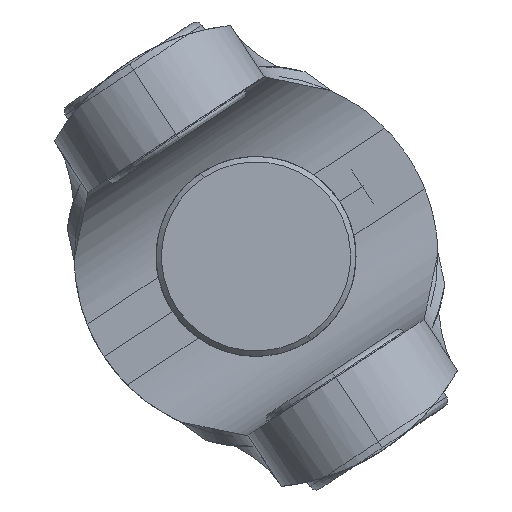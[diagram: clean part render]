
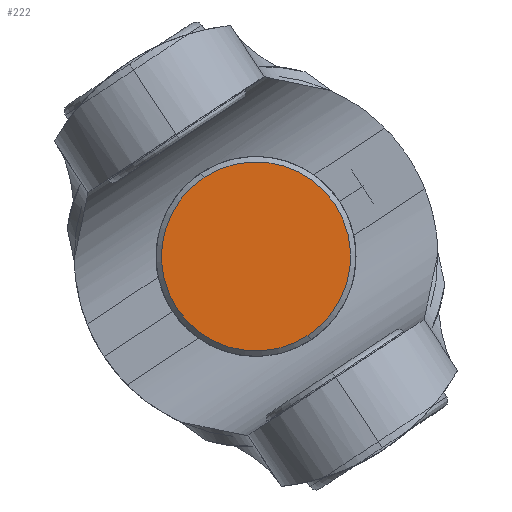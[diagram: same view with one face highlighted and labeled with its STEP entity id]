
A CAD part, top view. The second image highlights one B-rep face of the part: STEP entity #222.
In plain terms, the highlighted planar face has unit normal (0, 0, 1).
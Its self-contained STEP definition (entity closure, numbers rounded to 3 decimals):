
#30 = DIRECTION ( 'NONE',  ( 0.55, -0.835, 0. ) ) ;
#114 = VERTEX_POINT ( 'NONE', #2310 ) ;
#222 = ADVANCED_FACE ( 'NONE', ( #639 ), #2868, .F. ) ;
#273 = CARTESIAN_POINT ( 'NONE',  ( 0.002, 0., -214. ) ) ;
#571 = ORIENTED_EDGE ( 'NONE', *, *, #2355, .F. ) ;
#639 = FACE_OUTER_BOUND ( 'NONE', #2131, .T. ) ;
#654 = CARTESIAN_POINT ( 'NONE',  ( 0.002, 0., -214. ) ) ;
#673 = VERTEX_POINT ( 'NONE', #2672 ) ;
#759 = CARTESIAN_POINT ( 'NONE',  ( 0.002, 0., -214. ) ) ;
#856 = EDGE_CURVE ( 'NONE', #114, #673, #2827, .T. ) ;
#983 = CIRCLE ( 'NONE', #2584, 5.2 ) ;
#1298 = DIRECTION ( 'NONE',  ( 0.55, -0.835, 0. ) ) ;
#1423 = DIRECTION ( 'NONE',  ( 0.55, -0.835, 0. ) ) ;
#2131 = EDGE_LOOP ( 'NONE', ( #571, #2613 ) ) ;
#2240 = DIRECTION ( 'NONE',  ( 0., 0., -1. ) ) ;
#2310 = CARTESIAN_POINT ( 'NONE',  ( -2.857, 4.343, -214. ) ) ;
#2343 = DIRECTION ( 'NONE',  ( 0., 0., -1. ) ) ;
#2355 = EDGE_CURVE ( 'NONE', #673, #114, #983, .T. ) ;
#2409 = AXIS2_PLACEMENT_3D ( 'NONE', #654, #2343, #1423 ) ;
#2413 = AXIS2_PLACEMENT_3D ( 'NONE', #759, #2240, #1298 ) ;
#2584 = AXIS2_PLACEMENT_3D ( 'NONE', #273, #3002, #30 ) ;
#2613 = ORIENTED_EDGE ( 'NONE', *, *, #856, .F. ) ;
#2672 = CARTESIAN_POINT ( 'NONE',  ( 2.861, -4.343, -214. ) ) ;
#2827 = CIRCLE ( 'NONE', #2413, 5.2 ) ;
#2868 = PLANE ( 'NONE',  #2409 ) ;
#3002 = DIRECTION ( 'NONE',  ( 0., 0., -1. ) ) ;
